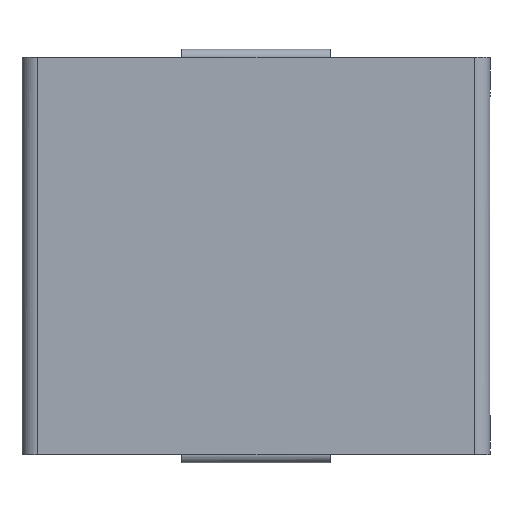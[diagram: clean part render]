
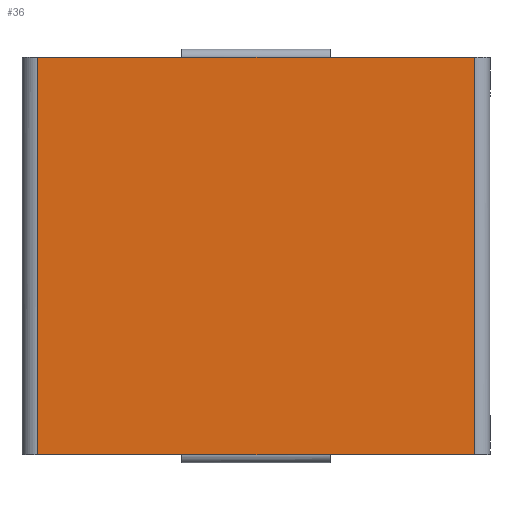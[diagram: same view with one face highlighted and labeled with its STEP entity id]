
A CAD part, front view. The second image highlights one B-rep face of the part: STEP entity #36.
In plain terms, the highlighted planar face has unit normal (0, -1, 0).
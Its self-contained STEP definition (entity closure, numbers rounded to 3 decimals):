
#36=ADVANCED_FACE('',(#124),#1362,.T.);
#124=FACE_OUTER_BOUND('',#212,.T.);
#212=EDGE_LOOP('',(#340,#341,#342,#343));
#340=ORIENTED_EDGE('',*,*,#756,.F.);
#341=ORIENTED_EDGE('',*,*,#759,.F.);
#342=ORIENTED_EDGE('',*,*,#755,.T.);
#343=ORIENTED_EDGE('',*,*,#758,.F.);
#755=EDGE_CURVE('',#1197,#1196,#1051,.T.);
#756=EDGE_CURVE('',#1199,#1198,#1052,.T.);
#758=EDGE_CURVE('',#1198,#1196,#1054,.T.);
#759=EDGE_CURVE('',#1197,#1199,#1055,.T.);
#1051=B_SPLINE_CURVE_WITH_KNOTS('',1,(#1978,#1979),.UNSPECIFIED.,.F.,.F.,
(2,2),(2.,58.),.UNSPECIFIED.);
#1052=B_SPLINE_CURVE_WITH_KNOTS('',1,(#1980,#1981),.UNSPECIFIED.,.F.,.F.,
(2,2),(2.,58.),.UNSPECIFIED.);
#1054=B_SPLINE_CURVE_WITH_KNOTS('',1,(#1984,#1985),.UNSPECIFIED.,.F.,.F.,
(2,2),(0.,52.),.UNSPECIFIED.);
#1055=B_SPLINE_CURVE_WITH_KNOTS('',1,(#1986,#1987),.UNSPECIFIED.,.F.,.F.,
(2,2),(0.,52.),.UNSPECIFIED.);
#1196=VERTEX_POINT('',#1832);
#1197=VERTEX_POINT('',#1833);
#1198=VERTEX_POINT('',#1834);
#1199=VERTEX_POINT('',#1835);
#1362=PLANE('',#1440);
#1440=AXIS2_PLACEMENT_3D('',#1562,#1501,$);
#1501=DIRECTION('',(0.,-1.,0.));
#1562=CARTESIAN_POINT('',(-28.,0.,-25.5));
#1832=CARTESIAN_POINT('',(28.,0.,-25.5));
#1833=CARTESIAN_POINT('',(-28.,0.,-25.5));
#1834=CARTESIAN_POINT('',(28.,0.,25.5));
#1835=CARTESIAN_POINT('',(-28.,0.,25.5));
#1978=CARTESIAN_POINT('',(-28.,0.,-25.5));
#1979=CARTESIAN_POINT('',(28.,0.,-25.5));
#1980=CARTESIAN_POINT('',(-28.,0.,25.5));
#1981=CARTESIAN_POINT('',(28.,0.,25.5));
#1984=CARTESIAN_POINT('',(28.,0.,25.5));
#1985=CARTESIAN_POINT('',(28.,0.,-25.5));
#1986=CARTESIAN_POINT('',(-28.,0.,-25.5));
#1987=CARTESIAN_POINT('',(-28.,0.,25.5));
